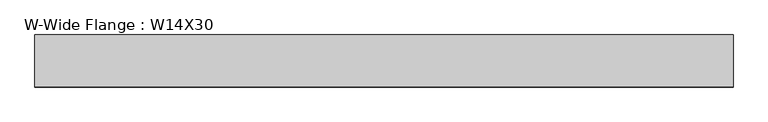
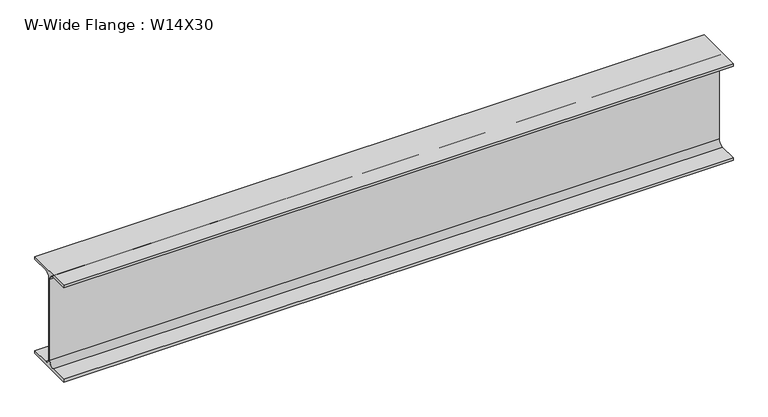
"""IFC4 building model written with IfcOpenShell, lengths in millimetres: beam geometry, W-Wide Flange : W14X30."""

from ifc_helpers import new_model, si_unit, point, frame, frame_2d, origin, place, context, project, spatial, polyline, circle_curve, trimmed, segment, composite_curve, outline, extrude, source, transform, mapped, element, save


def w_wide_flange_w14x30_791045be(model_context):
    return source(origin(), model_context, "Body", "SweptSolid", [
        extrude(outline(composite_curve([segment(polyline([(85.471, -165.481), (85.471, -175.26), (-85.471, -175.26), (-85.471, -165.481), (-22.225, -165.481)]), True, "CONTINUOUS"), segment(trimmed(circle_curve(frame_2d((-22.225, -146.685)), 18.796), [point((-22.225, -165.481))], [point((-3.429, -146.685))], True, "CARTESIAN"), True, "CONTINUOUS"), segment(polyline([(-3.429, -146.685), (-3.429, 146.685)]), True, "CONTINUOUS"), segment(trimmed(circle_curve(frame_2d((-22.225, 146.685)), 18.796), [point((-3.429, 146.685))], [point((-22.225, 165.481))], True, "CARTESIAN"), True, "CONTINUOUS"), segment(polyline([(-22.225, 165.481), (-85.471, 165.481), (-85.471, 175.26), (85.471, 175.26), (85.471, 165.481), (22.225, 165.481)]), True, "CONTINUOUS"), segment(trimmed(circle_curve(frame_2d((22.225, 146.685)), 18.796), [point((22.225, 165.481))], [point((3.429, 146.685))], True, "CARTESIAN"), True, "CONTINUOUS"), segment(polyline([(3.429, 146.685), (3.429, -146.685)]), True, "CONTINUOUS"), segment(trimmed(circle_curve(frame_2d((22.225, -146.685)), 18.796), [point((3.429, -146.685))], [point((22.225, -165.481))], True, "CARTESIAN"), True, "CONTINUOUS"), segment(polyline([(22.225, -165.481), (85.471, -165.481)]), True, "CONTINUOUS")], self_intersect=False)), frame((-1145.8011805, 0.0, 0.0), z_axis=(1.0, 0.0, 0.0), x_axis=(0.0, 1.0, 0.0)), (0.0, 0.0, 1.0), 2291.6023611),
    ])


if __name__ == "__main__":
    model = new_model("IFC4")
    model_context = context("Model", 3, world=origin())
    ifc_project = project(units=[si_unit("LENGTHUNIT", "METRE", prefix="MILLI")], contexts=[model_context])
    site = spatial("IfcSite", under=ifc_project)
    building = spatial("IfcBuilding", under=site)
    placement = place(None, origin())
    w_wide_flange_w14x30_shape = w_wide_flange_w14x30_791045be(model_context)
    element("IfcBeam", 1, ObjectType="W-Wide Flange : W14X30", at=placement, inside=building, context=model_context, shape_type="MappedRepresentation", body=[
        mapped(w_wide_flange_w14x30_shape, transform((0.0, 0.0, 0.0), x_axis=(1.0, 0.0, 0.0), y_axis=(0.0, 1.0, 0.0), z_axis=(0.0, 0.0, 1.0))),
    ])
    save(model, "model.ifc")
